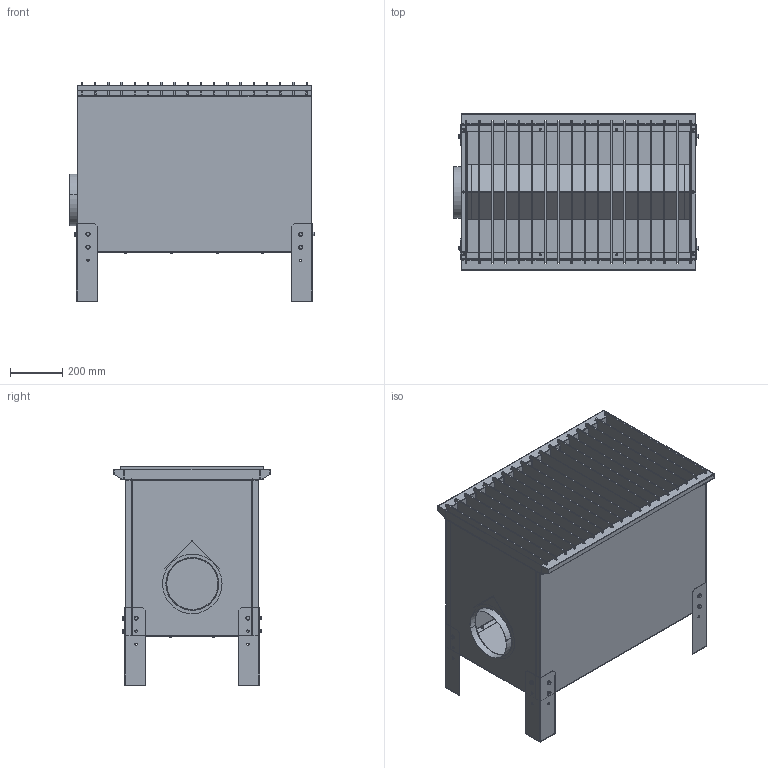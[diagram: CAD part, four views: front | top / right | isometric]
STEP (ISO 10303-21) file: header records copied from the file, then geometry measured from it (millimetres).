
FILE_DESCRIPTION(('STEP AP214'),'1');
FILE_NAME('02-002 svejsebord 900x600x800mm.stp','2017-01-18T07:43:37',(' '),(' '),'Spatial InterOp 3D',' ',' ');
FILE_SCHEMA(('automotive_design'));
Length unit declared in the file: metre
Products named in the file (20): ID_1-1; ID_1; ID_1-0; 02-002 svejsebord 900x600x800mm; ID_1-2; ID_2; ID_3; ID_1-3; ID_1-4; ID_5; ID_6; ID_1-5; ID_1-6; ID_4; ID_7; ID_8; ID_9; ID_10; ID_11
Assembly tree (88 placements, depth 3):
  02-002 svejsebord 900x600x800mm
    ID_1-1
      ID_1
      ID_1-0
    ID_1-2
      ID_2
      ID_1-0
      ID_3
    ID_1-3
      ID_1-4  x2
      ID_5  x2
      ID_6  x18
    ID_1-5
    ID_1-6
    ID_4
    ID_7
    ID_8  x4
    ID_9  x12
    ID_10  x12
    ID_11  x26
Bounding box: 937.75 x 600 x 843.12 mm (x, y, z)
Volume: 6563178.6 mm3; surface area: 7449486.8 mm2
Topology: 85 solids, 85 shells, 2931 faces, 7608 edges, 4852 vertices
Faces by surface type: plane 1503, cylinder 1202, cone 138, bspline 84, torus 4
Entity records: 40989 total; most frequent: CARTESIAN_POINT 13876, DIRECTION 4273, ORIENTED_EDGE 4188, EDGE_CURVE 2094, AXIS2_PLACEMENT_3D 1432, LINE 1409, VECTOR 1409, VERTEX_POINT 1338
